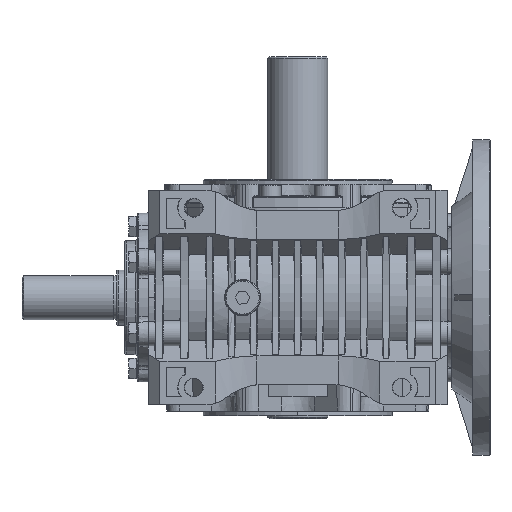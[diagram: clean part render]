
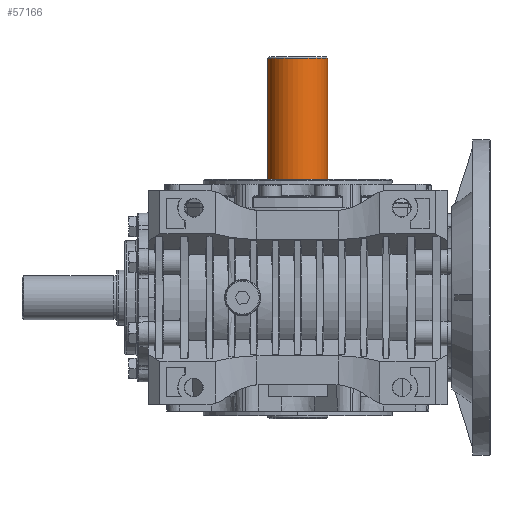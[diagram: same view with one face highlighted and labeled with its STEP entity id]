
A CAD part, front view. The second image highlights one B-rep face of the part: STEP entity #57166.
In plain terms, the highlighted cylindrical face has radius 19 mm (diameter 38 mm), a partial arc.
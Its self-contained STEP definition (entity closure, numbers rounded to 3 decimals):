
#4287 = CARTESIAN_POINT ( 'NONE',  ( 19., 0., 152. ) ) ;
#5514 = VERTEX_POINT ( 'NONE', #74810 ) ;
#6590 = ORIENTED_EDGE ( 'NONE', *, *, #98678, .F. ) ;
#13092 = CIRCLE ( 'NONE', #58585, 19. ) ;
#13098 = VECTOR ( 'NONE', #35808, 1000. ) ;
#15947 = CARTESIAN_POINT ( 'NONE',  ( 0., 0., 152. ) ) ;
#16924 = DIRECTION ( 'NONE',  ( -1., 0., 0. ) ) ;
#17764 = AXIS2_PLACEMENT_3D ( 'NONE', #85164, #101733, #112521 ) ;
#24502 = DIRECTION ( 'NONE',  ( 0., 0., -1. ) ) ;
#28780 = AXIS2_PLACEMENT_3D ( 'NONE', #76260, #101969, #16924 ) ;
#30078 = CARTESIAN_POINT ( 'NONE',  ( 19., 0., 75. ) ) ;
#35808 = DIRECTION ( 'NONE',  ( 0., 0., -1. ) ) ;
#49050 = DIRECTION ( 'NONE',  ( -1., 0., 0. ) ) ;
#57166 = ADVANCED_FACE ( 'NONE', ( #93977 ), #59166, .T. ) ;
#58585 = AXIS2_PLACEMENT_3D ( 'NONE', #15947, #24502, #49050 ) ;
#59166 = CYLINDRICAL_SURFACE ( 'NONE', #28780, 19. ) ;
#61582 = DIRECTION ( 'NONE',  ( 0., 0., -1. ) ) ;
#61904 = VECTOR ( 'NONE', #61582, 1000. ) ;
#63297 = ORIENTED_EDGE ( 'NONE', *, *, #90850, .T. ) ;
#68258 = EDGE_CURVE ( 'NONE', #96707, #101935, #13092, .T. ) ;
#71257 = LINE ( 'NONE', #78101, #61904 ) ;
#74810 = CARTESIAN_POINT ( 'NONE',  ( -19., 0., 75. ) ) ;
#76260 = CARTESIAN_POINT ( 'NONE',  ( 0., 0., 69. ) ) ;
#77105 = EDGE_CURVE ( 'NONE', #91119, #5514, #77763, .T. ) ;
#77763 = CIRCLE ( 'NONE', #17764, 19. ) ;
#78101 = CARTESIAN_POINT ( 'NONE',  ( 19., 0., 69. ) ) ;
#78563 = LINE ( 'NONE', #96287, #13098 ) ;
#85164 = CARTESIAN_POINT ( 'NONE',  ( 0., 0., 75. ) ) ;
#90850 = EDGE_CURVE ( 'NONE', #101935, #5514, #78563, .T. ) ;
#91119 = VERTEX_POINT ( 'NONE', #30078 ) ;
#93977 = FACE_OUTER_BOUND ( 'NONE', #95461, .T. ) ;
#95461 = EDGE_LOOP ( 'NONE', ( #6590, #99412, #63297, #102455 ) ) ;
#96287 = CARTESIAN_POINT ( 'NONE',  ( -19., 0., 69. ) ) ;
#96707 = VERTEX_POINT ( 'NONE', #4287 ) ;
#98678 = EDGE_CURVE ( 'NONE', #96707, #91119, #71257, .T. ) ;
#99412 = ORIENTED_EDGE ( 'NONE', *, *, #68258, .T. ) ;
#101733 = DIRECTION ( 'NONE',  ( 0., 0., -1. ) ) ;
#101935 = VERTEX_POINT ( 'NONE', #102029 ) ;
#101969 = DIRECTION ( 'NONE',  ( 0., 0., -1. ) ) ;
#102029 = CARTESIAN_POINT ( 'NONE',  ( -19., 0., 152. ) ) ;
#102455 = ORIENTED_EDGE ( 'NONE', *, *, #77105, .F. ) ;
#112521 = DIRECTION ( 'NONE',  ( -1., 0., 0. ) ) ;
